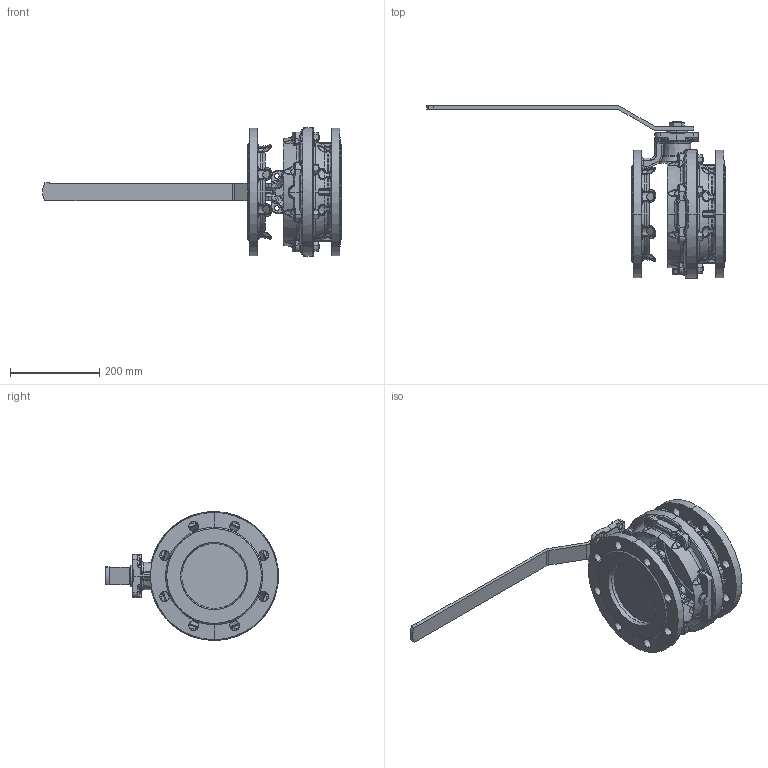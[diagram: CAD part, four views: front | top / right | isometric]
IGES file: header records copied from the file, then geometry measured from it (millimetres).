
Start section: SolidWorks IGES file using analytic representation for surfaces
Global section: file name: C:\Documents and Settings\Luca.Saino\Desktop\B2 IGES+DWG\IGES\B2.100I150L16CN.IGS; native system: SolidWorks 2008; preprocessor: SolidWorks 2008; author: Luca.Saino; date: 080617.110828; units: millimetre
Bounding box: 669 x 386.93 x 288 mm (x, y, z)
Surface area: 534287.4 mm2 (no closed solid volume)
Topology: 0 solids, 0 shells, 1626 faces, 21835 edges, 21754 vertices
Faces by surface type: bspline 985, revolution 641
